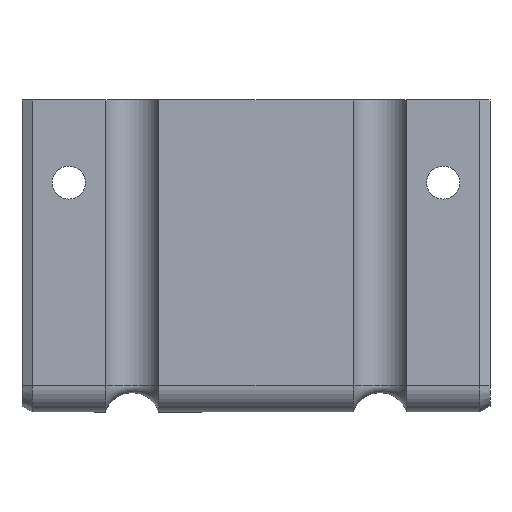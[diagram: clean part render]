
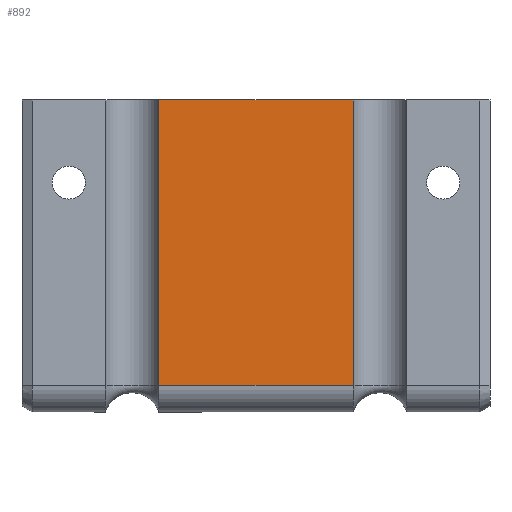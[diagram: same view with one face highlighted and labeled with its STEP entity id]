
A CAD part, front view. The second image highlights one B-rep face of the part: STEP entity #892.
In plain terms, the highlighted planar face has unit normal (0, -1, 0).
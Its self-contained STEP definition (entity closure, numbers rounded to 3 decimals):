
#54=PLANE('',#986);
#106=FACE_OUTER_BOUND('',#166,.T.);
#166=EDGE_LOOP('',(#770,#771,#772,#773));
#242=LINE('',#1462,#326);
#251=LINE('',#1497,#335);
#252=LINE('',#1501,#336);
#253=LINE('',#1502,#337);
#326=VECTOR('',#1194,1.);
#335=VECTOR('',#1239,1.);
#336=VECTOR('',#1244,1.);
#337=VECTOR('',#1245,1.);
#442=VERTEX_POINT('',#1456);
#443=VERTEX_POINT('',#1460);
#451=VERTEX_POINT('',#1496);
#452=VERTEX_POINT('',#1500);
#551=EDGE_CURVE('',#442,#443,#242,.T.);
#568=EDGE_CURVE('',#451,#442,#251,.T.);
#570=EDGE_CURVE('',#452,#443,#252,.T.);
#571=EDGE_CURVE('',#452,#451,#253,.T.);
#770=ORIENTED_EDGE('',*,*,#551,.T.);
#771=ORIENTED_EDGE('',*,*,#570,.F.);
#772=ORIENTED_EDGE('',*,*,#571,.T.);
#773=ORIENTED_EDGE('',*,*,#568,.T.);
#892=ADVANCED_FACE('',(#106),#54,.T.);
#986=AXIS2_PLACEMENT_3D('',#1499,#1242,#1243);
#1194=DIRECTION('',(1.,0.,0.));
#1239=DIRECTION('',(0.,0.,-1.));
#1242=DIRECTION('center_axis',(0.,-1.,0.));
#1243=DIRECTION('ref_axis',(0.,0.,-1.));
#1244=DIRECTION('',(0.,0.,-1.));
#1245=DIRECTION('',(-1.,0.,0.));
#1456=CARTESIAN_POINT('',(-52.972,0.,14.5));
#1460=CARTESIAN_POINT('',(52.972,0.,14.5));
#1462=CARTESIAN_POINT('',(52.972,0.,14.5));
#1496=CARTESIAN_POINT('',(-52.972,0.,170.));
#1497=CARTESIAN_POINT('',(-52.972,0.,170.));
#1499=CARTESIAN_POINT('Origin',(-52.972,0.,
170.));
#1500=CARTESIAN_POINT('',(52.972,0.,170.));
#1501=CARTESIAN_POINT('',(52.972,0.,170.));
#1502=CARTESIAN_POINT('',(52.972,0.,170.));
